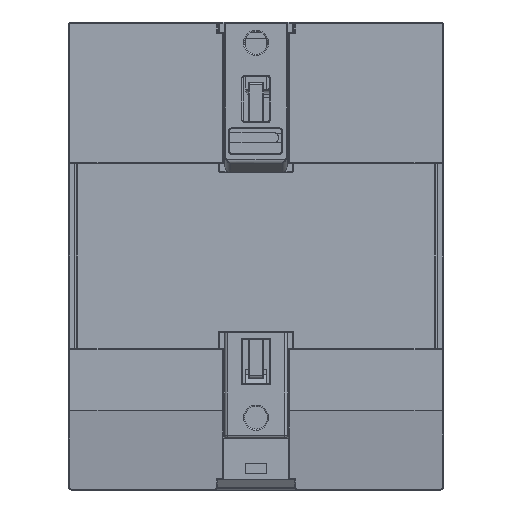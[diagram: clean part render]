
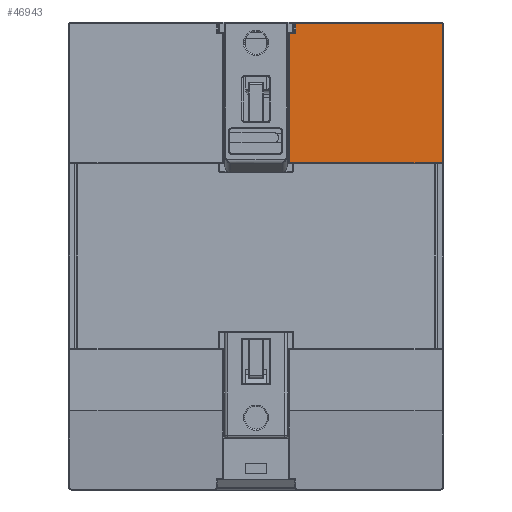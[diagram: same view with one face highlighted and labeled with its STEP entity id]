
A CAD part, front view. The second image highlights one B-rep face of the part: STEP entity #46943.
In plain terms, the highlighted planar face has unit normal (0, -1, 0).
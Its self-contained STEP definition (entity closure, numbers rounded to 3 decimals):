
#144 = AXIS2_PLACEMENT_3D ( 'NONE', #30582, #42536, #37885 ) ;
#3165 = CARTESIAN_POINT ( 'NONE',  ( -28.35, 0., -2.2 ) ) ;
#3678 = ORIENTED_EDGE ( 'NONE', *, *, #19357, .T. ) ;
#5562 = ORIENTED_EDGE ( 'NONE', *, *, #15403, .T. ) ;
#6113 = DIRECTION ( 'NONE',  ( -1., 0., 0. ) ) ;
#7104 = DIRECTION ( 'NONE',  ( 0., 0., -1. ) ) ;
#7938 = DIRECTION ( 'NONE',  ( 0., 0., -1. ) ) ;
#8220 = DIRECTION ( 'NONE',  ( 0., -1., 0. ) ) ;
#10115 = VERTEX_POINT ( 'NONE', #51034 ) ;
#10388 = CARTESIAN_POINT ( 'NONE',  ( -29.6, 0., -2.2 ) ) ;
#11681 = ORIENTED_EDGE ( 'NONE', *, *, #45748, .T. ) ;
#12212 = CARTESIAN_POINT ( 'NONE',  ( -0.5, 0., -0.2 ) ) ;
#13172 = ORIENTED_EDGE ( 'NONE', *, *, #24171, .T. ) ;
#13457 = CARTESIAN_POINT ( 'NONE',  ( -28.35, 0., -2. ) ) ;
#14326 = CARTESIAN_POINT ( 'NONE',  ( -0.2, 0., -0.5 ) ) ;
#15403 = EDGE_CURVE ( 'NONE', #25365, #10115, #41294, .T. ) ;
#16232 = CARTESIAN_POINT ( 'NONE',  ( -0.2, 0., -0.5 ) ) ;
#19311 = VECTOR ( 'NONE', #42431, 1000. ) ;
#19357 = EDGE_CURVE ( 'NONE', #25058, #30689, #44343, .T. ) ;
#19582 = VERTEX_POINT ( 'NONE', #3165 ) ;
#20184 = CARTESIAN_POINT ( 'NONE',  ( -0.5, 0., -0.5 ) ) ;
#20359 = ORIENTED_EDGE ( 'NONE', *, *, #40202, .T. ) ;
#20523 = CARTESIAN_POINT ( 'NONE',  ( -28.05, 0., -0.2 ) ) ;
#20781 = VECTOR ( 'NONE', #30907, 1000. ) ;
#22031 = PLANE ( 'NONE',  #144 ) ;
#22989 = AXIS2_PLACEMENT_3D ( 'NONE', #43890, #8220, #51416 ) ;
#24112 = VERTEX_POINT ( 'NONE', #35020 ) ;
#24171 = EDGE_CURVE ( 'NONE', #30689, #51344, #38751, .T. ) ;
#25058 = VERTEX_POINT ( 'NONE', #50743 ) ;
#25299 = ORIENTED_EDGE ( 'NONE', *, *, #30600, .T. ) ;
#25365 = VERTEX_POINT ( 'NONE', #20523 ) ;
#26846 = VECTOR ( 'NONE', #7104, 1000. ) ;
#27269 = LINE ( 'NONE', #39740, #20781 ) ;
#27491 = VERTEX_POINT ( 'NONE', #10388 ) ;
#27555 = EDGE_LOOP ( 'NONE', ( #3678, #13172, #11681, #5562, #36648, #25299, #20359, #28448 ) ) ;
#28448 = ORIENTED_EDGE ( 'NONE', *, *, #29471, .T. ) ;
#29366 = DIRECTION ( 'NONE',  ( 0., 0., -1. ) ) ;
#29471 = EDGE_CURVE ( 'NONE', #24112, #25058, #27269, .T. ) ;
#30082 = FACE_OUTER_BOUND ( 'NONE', #27555, .T. ) ;
#30582 = CARTESIAN_POINT ( 'NONE',  ( -72., 0., 0. ) ) ;
#30600 = EDGE_CURVE ( 'NONE', #19582, #27491, #37512, .T. ) ;
#30689 = VERTEX_POINT ( 'NONE', #14326 ) ;
#30733 = CARTESIAN_POINT ( 'NONE',  ( -72., 0., -2.2 ) ) ;
#30907 = DIRECTION ( 'NONE',  ( 1., 0., 0. ) ) ;
#34096 = VECTOR ( 'NONE', #6113, 1000. ) ;
#34456 = CARTESIAN_POINT ( 'NONE',  ( -29.6, 0., -27.25 ) ) ;
#34967 = LINE ( 'NONE', #34456, #26846 ) ;
#35020 = CARTESIAN_POINT ( 'NONE',  ( -29.6, 0., -27.05 ) ) ;
#36648 = ORIENTED_EDGE ( 'NONE', *, *, #44489, .T. ) ;
#37512 = LINE ( 'NONE', #30733, #19311 ) ;
#37885 = DIRECTION ( 'NONE',  ( 0., 0., -1. ) ) ;
#38751 = CIRCLE ( 'NONE', #45398, 0.3 ) ;
#39704 = DIRECTION ( 'NONE',  ( 0., -1., 0. ) ) ;
#39740 = CARTESIAN_POINT ( 'NONE',  ( -72., 0., -27.05 ) ) ;
#40202 = EDGE_CURVE ( 'NONE', #27491, #24112, #34967, .T. ) ;
#41294 = CIRCLE ( 'NONE', #22989, 0.3 ) ;
#42284 = LINE ( 'NONE', #50569, #34096 ) ;
#42431 = DIRECTION ( 'NONE',  ( -1., 0., 0. ) ) ;
#42536 = DIRECTION ( 'NONE',  ( 0., -1., 0. ) ) ;
#43890 = CARTESIAN_POINT ( 'NONE',  ( -28.05, 0., -0.5 ) ) ;
#44343 = LINE ( 'NONE', #16232, #46109 ) ;
#44489 = EDGE_CURVE ( 'NONE', #10115, #19582, #49113, .T. ) ;
#44790 = VECTOR ( 'NONE', #29366, 1000. ) ;
#45398 = AXIS2_PLACEMENT_3D ( 'NONE', #20184, #39704, #7938 ) ;
#45748 = EDGE_CURVE ( 'NONE', #51344, #25365, #42284, .T. ) ;
#46109 = VECTOR ( 'NONE', #47976, 1000. ) ;
#46943 = ADVANCED_FACE ( 'NONE', ( #30082 ), #22031, .T. ) ;
#47976 = DIRECTION ( 'NONE',  ( 0., 0., 1. ) ) ;
#49113 = LINE ( 'NONE', #13457, #44790 ) ;
#50569 = CARTESIAN_POINT ( 'NONE',  ( -72., 0., -0.2 ) ) ;
#50743 = CARTESIAN_POINT ( 'NONE',  ( -0.2, 0., -27.05 ) ) ;
#51034 = CARTESIAN_POINT ( 'NONE',  ( -28.35, 0., -0.5 ) ) ;
#51344 = VERTEX_POINT ( 'NONE', #12212 ) ;
#51416 = DIRECTION ( 'NONE',  ( 0., 0., -1. ) ) ;
